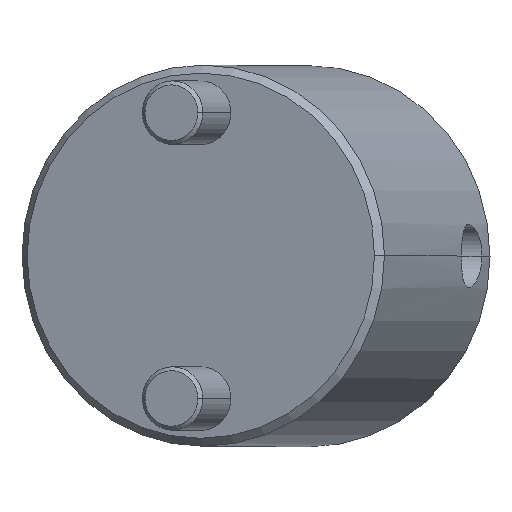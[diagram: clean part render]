
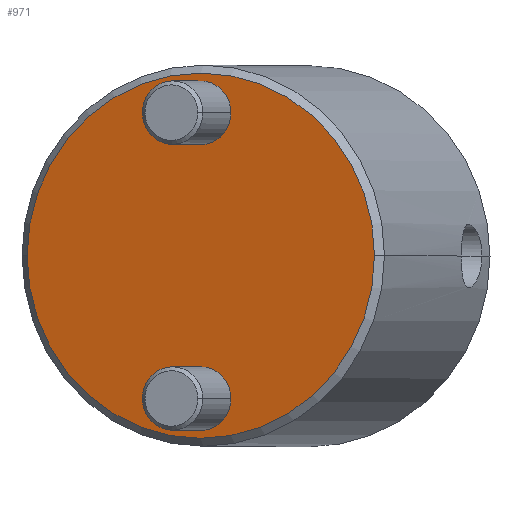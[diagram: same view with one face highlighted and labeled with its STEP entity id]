
A CAD part, top view. The second image highlights one B-rep face of the part: STEP entity #971.
In plain terms, the highlighted planar face has unit normal (-0.309, 0, 0.951) as drawn and (0, 0, -1) by its records, which use the part's own axes.
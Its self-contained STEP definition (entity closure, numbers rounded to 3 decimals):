
#6 = CARTESIAN_POINT ( 'NONE',  ( 0., 18., 0. ) ) ;
#17 = ORIENTED_EDGE ( 'NONE', *, *, #1512, .F. ) ;
#79 = EDGE_CURVE ( 'NONE', #935, #382, #188, .T. ) ;
#107 = EDGE_LOOP ( 'NONE', ( #17, #1017 ) ) ;
#124 = DIRECTION ( 'NONE',  ( -1., 0., 0. ) ) ;
#125 = ORIENTED_EDGE ( 'NONE', *, *, #1175, .F. ) ;
#143 = EDGE_CURVE ( 'NONE', #382, #935, #234, .T. ) ;
#188 = CIRCLE ( 'NONE', #865, 23. ) ;
#234 = CIRCLE ( 'NONE', #1313, 23. ) ;
#255 = DIRECTION ( 'NONE',  ( -1., 0., 0. ) ) ;
#264 = CARTESIAN_POINT ( 'NONE',  ( 23., 0., 0. ) ) ;
#273 = AXIS2_PLACEMENT_3D ( 'NONE', #1105, #621, #1330 ) ;
#311 = VERTEX_POINT ( 'NONE', #419 ) ;
#314 = DIRECTION ( 'NONE',  ( 0., 0., -1. ) ) ;
#342 = CIRCLE ( 'NONE', #1016, 4. ) ;
#355 = AXIS2_PLACEMENT_3D ( 'NONE', #6, #571, #816 ) ;
#382 = VERTEX_POINT ( 'NONE', #433 ) ;
#383 = EDGE_CURVE ( 'NONE', #311, #1011, #342, .T. ) ;
#384 = CIRCLE ( 'NONE', #355, 4. ) ;
#419 = CARTESIAN_POINT ( 'NONE',  ( 4., -18., 0. ) ) ;
#433 = CARTESIAN_POINT ( 'NONE',  ( -23., 0., 0. ) ) ;
#488 = FACE_BOUND ( 'NONE', #1338, .T. ) ;
#571 = DIRECTION ( 'NONE',  ( 0., 0., -1. ) ) ;
#574 = EDGE_CURVE ( 'NONE', #1358, #629, #1118, .T. ) ;
#598 = EDGE_LOOP ( 'NONE', ( #1391, #1466 ) ) ;
#600 = ORIENTED_EDGE ( 'NONE', *, *, #574, .F. ) ;
#604 = PLANE ( 'NONE',  #273 ) ;
#621 = DIRECTION ( 'NONE',  ( 0., 0., 1. ) ) ;
#629 = VERTEX_POINT ( 'NONE', #904 ) ;
#652 = DIRECTION ( 'NONE',  ( 1., 0., 0. ) ) ;
#661 = CIRCLE ( 'NONE', #1196, 4. ) ;
#708 = DIRECTION ( 'NONE',  ( 0., 0., 1. ) ) ;
#717 = CARTESIAN_POINT ( 'NONE',  ( 0., -18., 0. ) ) ;
#816 = DIRECTION ( 'NONE',  ( -1., 0., 0. ) ) ;
#865 = AXIS2_PLACEMENT_3D ( 'NONE', #1251, #1359, #652 ) ;
#904 = CARTESIAN_POINT ( 'NONE',  ( 4., 18., 0. ) ) ;
#907 = DIRECTION ( 'NONE',  ( -1., 0., 0. ) ) ;
#935 = VERTEX_POINT ( 'NONE', #264 ) ;
#971 = ADVANCED_FACE ( 'NONE', ( #488, #1081, #1316 ), #604, .F. ) ;
#980 = DIRECTION ( 'NONE',  ( 0., 0., -1. ) ) ;
#1011 = VERTEX_POINT ( 'NONE', #1394 ) ;
#1016 = AXIS2_PLACEMENT_3D ( 'NONE', #1506, #314, #907 ) ;
#1017 = ORIENTED_EDGE ( 'NONE', *, *, #383, .F. ) ;
#1068 = DIRECTION ( 'NONE',  ( 1., 0., 0. ) ) ;
#1078 = CARTESIAN_POINT ( 'NONE',  ( 0., 18., 0. ) ) ;
#1081 = FACE_BOUND ( 'NONE', #107, .T. ) ;
#1105 = CARTESIAN_POINT ( 'NONE',  ( 0., 0., 0. ) ) ;
#1118 = CIRCLE ( 'NONE', #1129, 4. ) ;
#1129 = AXIS2_PLACEMENT_3D ( 'NONE', #1078, #980, #255 ) ;
#1167 = CARTESIAN_POINT ( 'NONE',  ( -4., 18., 0. ) ) ;
#1175 = EDGE_CURVE ( 'NONE', #629, #1358, #384, .T. ) ;
#1196 = AXIS2_PLACEMENT_3D ( 'NONE', #717, #1407, #124 ) ;
#1251 = CARTESIAN_POINT ( 'NONE',  ( 0., 0., 0. ) ) ;
#1313 = AXIS2_PLACEMENT_3D ( 'NONE', #1413, #708, #1068 ) ;
#1316 = FACE_OUTER_BOUND ( 'NONE', #598, .T. ) ;
#1330 = DIRECTION ( 'NONE',  ( 1., 0., 0. ) ) ;
#1338 = EDGE_LOOP ( 'NONE', ( #600, #125 ) ) ;
#1358 = VERTEX_POINT ( 'NONE', #1167 ) ;
#1359 = DIRECTION ( 'NONE',  ( 0., 0., 1. ) ) ;
#1391 = ORIENTED_EDGE ( 'NONE', *, *, #79, .F. ) ;
#1394 = CARTESIAN_POINT ( 'NONE',  ( -4., -18., 0. ) ) ;
#1407 = DIRECTION ( 'NONE',  ( 0., 0., -1. ) ) ;
#1413 = CARTESIAN_POINT ( 'NONE',  ( 0., 0., 0. ) ) ;
#1466 = ORIENTED_EDGE ( 'NONE', *, *, #143, .F. ) ;
#1506 = CARTESIAN_POINT ( 'NONE',  ( 0., -18., 0. ) ) ;
#1512 = EDGE_CURVE ( 'NONE', #1011, #311, #661, .T. ) ;
